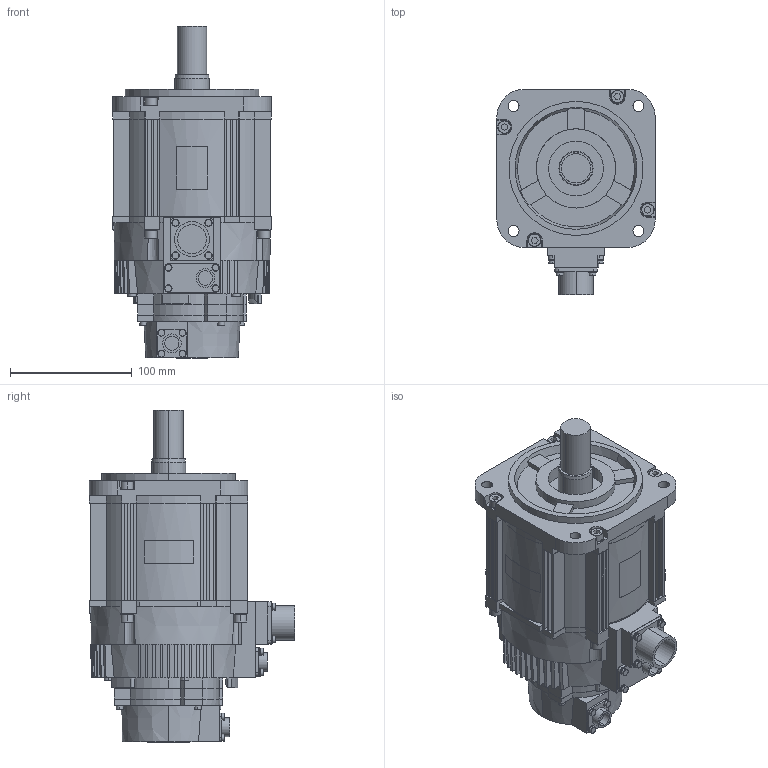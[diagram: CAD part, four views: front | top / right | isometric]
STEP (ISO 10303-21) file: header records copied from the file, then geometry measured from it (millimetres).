
FILE_DESCRIPTION (( 'STEP AP203' ), '1' );
FILE_NAME ('sgm7g_20a6a2c.STEP', '2016-11-12T04:52:55', ( '匠エンジニアリング山之内' ), ( 'TAKUMI-Engniaring' ), 'SwSTEP 2.0', 'SolidWorks 2006303', '' );
FILE_SCHEMA (( 'CONFIG_CONTROL_DESIGN' ));
Length unit declared in the file: millimetre
Products named in the file (1): sgm7g_20a6a2c
Bounding box: 130 x 168.49 x 272.6 mm (x, y, z)
Volume: 2551208.1 mm3; surface area: 182253.4 mm2
Topology: 1 solids, 1 shells, 929 faces, 2368 edges, 1537 vertices
Faces by surface type: plane 579, cylinder 250, cone 100
Entity records: 28727 total; most frequent: CARTESIAN_POINT 5771, DIRECTION 4822, ORIENTED_EDGE 4736, EDGE_CURVE 2368, AXIS2_PLACEMENT_3D 1702, VERTEX_POINT 1537, VECTOR 1418, LINE 1418
